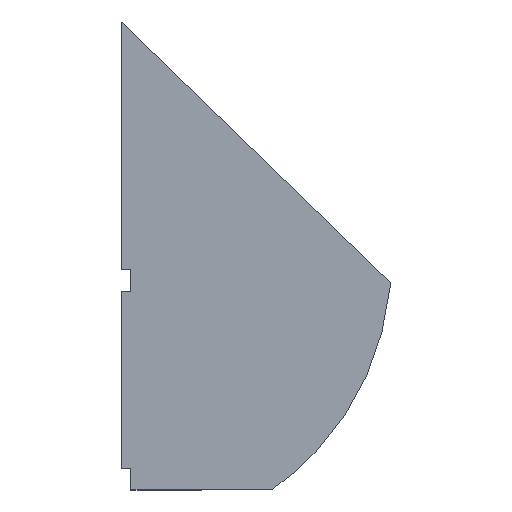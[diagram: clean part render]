
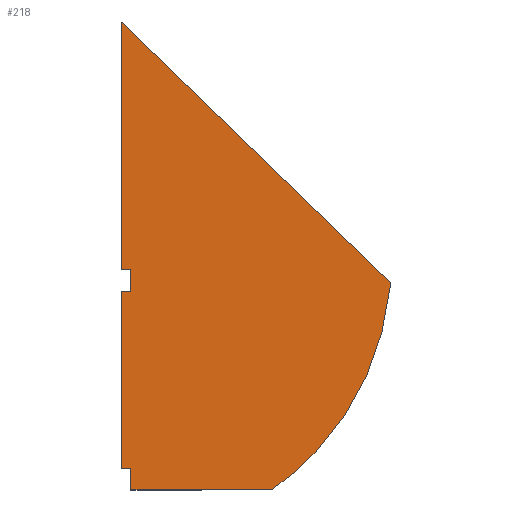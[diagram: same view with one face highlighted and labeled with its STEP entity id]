
A CAD part, top view. The second image highlights one B-rep face of the part: STEP entity #218.
In plain terms, the highlighted planar face has unit normal (0, 0, 1).
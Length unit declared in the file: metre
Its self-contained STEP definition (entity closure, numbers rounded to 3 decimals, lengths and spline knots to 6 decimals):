
#13=(
BOUNDED_CURVE()
B_SPLINE_CURVE(2,(#327,#328,#329),.UNSPECIFIED.,.F.,.F.)
B_SPLINE_CURVE_WITH_KNOTS((3,3),(0.,1.),.PIECEWISE_BEZIER_KNOTS.)
CURVE()
GEOMETRIC_REPRESENTATION_ITEM()
RATIONAL_B_SPLINE_CURVE((1.,1.,1.))
REPRESENTATION_ITEM('')
);
#23=ORIENTED_EDGE('',*,*,#81,.T.);
#24=ORIENTED_EDGE('',*,*,#83,.T.);
#25=ORIENTED_EDGE('',*,*,#84,.F.);
#26=ORIENTED_EDGE('',*,*,#78,.T.);
#27=ORIENTED_EDGE('',*,*,#85,.F.);
#28=ORIENTED_EDGE('',*,*,#86,.F.);
#29=ORIENTED_EDGE('',*,*,#87,.T.);
#30=ORIENTED_EDGE('',*,*,#88,.F.);
#31=ORIENTED_EDGE('',*,*,#89,.T.);
#32=ORIENTED_EDGE('',*,*,#90,.T.);
#78=EDGE_CURVE('',#106,#108,#128,.T.);
#81=EDGE_CURVE('',#112,#111,#131,.T.);
#83=EDGE_CURVE('',#111,#113,#133,.T.);
#84=EDGE_CURVE('',#106,#113,#134,.T.);
#85=EDGE_CURVE('',#114,#108,#13,.T.);
#86=EDGE_CURVE('',#115,#114,#135,.T.);
#87=EDGE_CURVE('',#115,#116,#136,.T.);
#88=EDGE_CURVE('',#117,#116,#137,.T.);
#89=EDGE_CURVE('',#117,#118,#138,.T.);
#90=EDGE_CURVE('',#118,#112,#139,.T.);
#106=VERTEX_POINT('',#308);
#108=VERTEX_POINT('',#312);
#111=VERTEX_POINT('',#319);
#112=VERTEX_POINT('',#321);
#113=VERTEX_POINT('',#325);
#114=VERTEX_POINT('',#330);
#115=VERTEX_POINT('',#332);
#116=VERTEX_POINT('',#334);
#117=VERTEX_POINT('',#336);
#118=VERTEX_POINT('',#338);
#128=LINE('',#313,#156);
#131=LINE('',#320,#159);
#133=LINE('',#324,#161);
#134=LINE('',#326,#162);
#135=LINE('',#331,#163);
#136=LINE('',#333,#164);
#137=LINE('',#335,#165);
#138=LINE('',#337,#166);
#139=LINE('',#339,#167);
#156=VECTOR('',#259,1.);
#159=VECTOR('',#264,1.);
#161=VECTOR('',#268,1.);
#162=VECTOR('',#269,1.);
#163=VECTOR('',#270,1.);
#164=VECTOR('',#271,1.);
#165=VECTOR('',#272,1.);
#166=VECTOR('',#273,1.);
#167=VECTOR('',#274,1.);
#183=EDGE_LOOP('',(#23,#24,#25,#26,#27,#28,#29,#30,#31,#32));
#195=FACE_BOUND('',#183,.T.);
#207=PLANE('',#243);
#218=ADVANCED_FACE('',(#195),#207,.T.);
#243=AXIS2_PLACEMENT_3D('',#323,#266,#267);
#259=DIRECTION('',(1.,0.,0.));
#264=DIRECTION('',(0.,-1.,0.));
#266=DIRECTION('',(0.,0.,1.));
#267=DIRECTION('',(1.,0.,0.));
#268=DIRECTION('',(1.,0.,0.));
#269=DIRECTION('',(0.,1.,0.));
#270=DIRECTION('',(0.719,-0.695,0.));
#271=DIRECTION('',(0.,-1.,0.));
#272=DIRECTION('',(-1.,0.,0.));
#273=DIRECTION('',(0.,-1.,0.));
#274=DIRECTION('',(-1.,0.,0.));
#308=CARTESIAN_POINT('',(0.003607,0.,0.00447));
#312=CARTESIAN_POINT('',(0.054864,0.,0.00447));
#313=CARTESIAN_POINT('',(0.027432,0.,0.00447));
#319=CARTESIAN_POINT('',(0.,0.007747,0.00447));
#320=CARTESIAN_POINT('',(0.,0.085141,0.00447));
#321=CARTESIAN_POINT('',(0.,0.072327,0.00447));
#323=CARTESIAN_POINT('',(0.049102,0.085141,0.00447));
#324=CARTESIAN_POINT('',(0.001803,0.007747,0.00447));
#325=CARTESIAN_POINT('',(0.003607,0.007747,0.00447));
#326=CARTESIAN_POINT('',(0.003607,0.003874,0.00447));
#327=CARTESIAN_POINT('',(0.098203,0.075402,0.00447));
#328=CARTESIAN_POINT('',(0.092958,0.027541,0.00447));
#329=CARTESIAN_POINT('',(0.054864,0.,0.00447));
#330=CARTESIAN_POINT('',(0.098203,0.075402,0.00447));
#331=CARTESIAN_POINT('',(0.049102,0.122842,0.00447));
#332=CARTESIAN_POINT('',(0.,0.170282,0.00447));
#333=CARTESIAN_POINT('',(0.,0.085141,0.00447));
#334=CARTESIAN_POINT('',(0.,0.080074,0.00447));
#335=CARTESIAN_POINT('',(0.,0.080074,0.00447));
#336=CARTESIAN_POINT('',(0.003556,0.080074,0.00447));
#337=CARTESIAN_POINT('',(0.003556,0.0762,0.00447));
#338=CARTESIAN_POINT('',(0.003556,0.072327,0.00447));
#339=CARTESIAN_POINT('',(0.,0.072327,0.00447));
